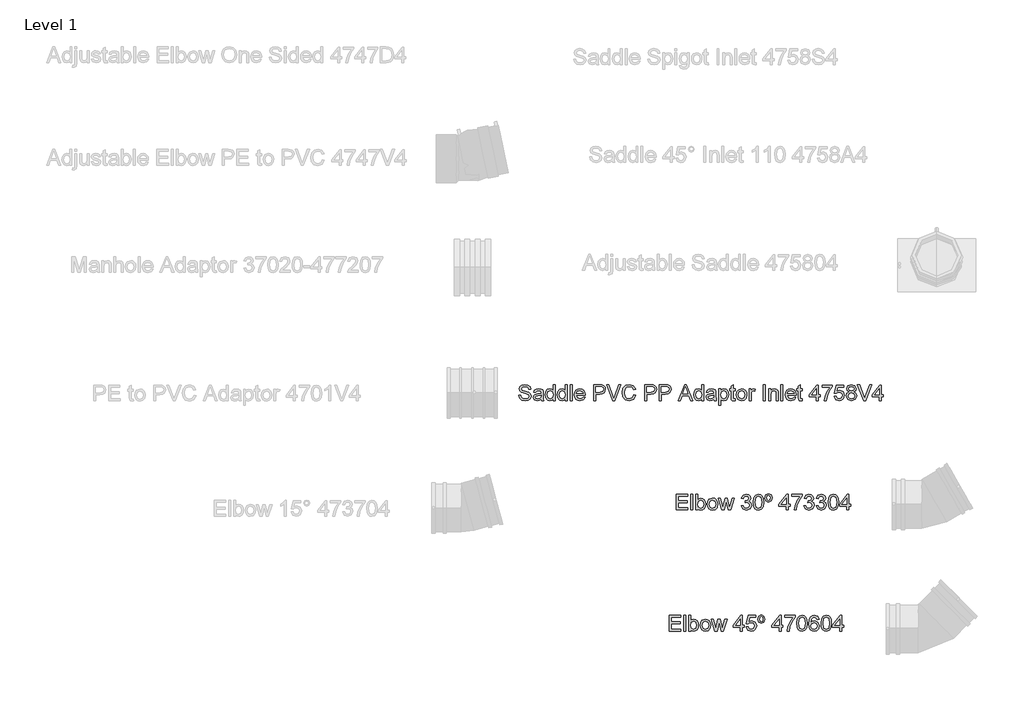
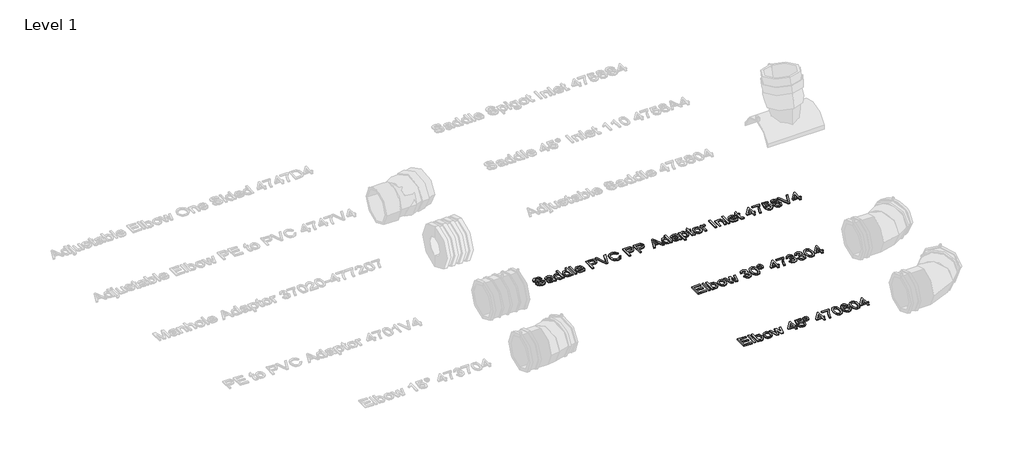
# One storey, part 35 of 38: 3 proxies.
"""IFC4 building model written with IfcOpenShell, lengths in millimetres."""

from ifc_helpers import new_model, si_unit, origin, origin_with_axes, place, context, project, spatial, polyline, outline, extrude, element, save

model = new_model("IFC4")

# Units and contexts
model_context = context("Model", 3, world=origin())
ifc_project = project(units=[si_unit("LENGTHUNIT", "METRE", prefix="MILLI")], contexts=[model_context])

# Site, building, storey
site = spatial("IfcSite", under=ifc_project)
building = spatial("IfcBuilding", under=site)
storey = spatial("IfcBuildingStorey", under=building, Name="Level 1", Elevation=0.0)

# Proxies
placement = place(None, origin())
element("IfcBuildingElementProxy", 1, Name="100 mm Arial", ObjectType="100 mm Arial", at=placement, inside=storey, context=model_context, shape_type="SweptSolid", body=[
    extrude(outline(polyline([(25571.9032607, 3533.8470421), (25579.2878761, 3533.8470421), (25581.6676838, 3526.4552151), (25587.4801838, 3521.7821382), (25596.335953, 3520.0008882), (25604.0522992, 3521.3494459), (25609.0354722, 3525.0561767), (25610.6724915, 3530.0105036), (25609.4465299, 3534.6186767), (25604.4272992, 3537.9720421), (25593.6748953, 3540.7917536), (25582.1003761, 3544.4335805), (25575.8191261, 3549.9287728), (25573.7494146, 3557.270119), (25576.3095107, 3565.6282921), (25583.7878761, 3571.5273305), (25594.7349915, 3573.5393497), (25606.4176838, 3571.4335805), (25614.2061453, 3565.2460805), (25617.1340299, 3556.0008882), (25609.7494146, 3556.0008882), (25605.5667222, 3563.5874267), (25595.023453, 3566.1547344), (25584.4513376, 3563.6162728), (25581.1340299, 3557.4864651), (25583.4849915, 3552.3662728), (25595.5426838, 3548.2412728), (25608.6099915, 3544.5345421), (25615.7566261, 3538.5489651), (25618.0571069, 3530.1980036), (25615.4104722, 3521.363869), (25607.7950876, 3514.9167536), (25596.6244146, 3512.6162728), (25583.4345107, 3515.0970421), (25575.0907607, 3522.5681959), (25571.9032607, 3533.8470421)])), origin_with_axes(), (0.0, 0.0, 1.0), 5.0),
    extrude(outline(polyline([(25655.9032607, 3519.0778113), (25648.742203, 3514.0730036), (25640.8311453, 3512.6162728), (25630.1075876, 3516.1210805), (25626.3647992, 3525.0778113), (25627.7782607, 3530.9191574), (25631.492203, 3535.1595421), (25636.6628761, 3537.582619), (25643.0522992, 3538.6931959), (25655.8599915, 3541.2316574), (25655.9032607, 3542.8758882), (25653.8696069, 3548.3278113), (25645.7061453, 3550.4624267), (25638.2349915, 3549.0417536), (25634.6724915, 3544.0008882), (25627.2878761, 3544.9239651), (25630.4825876, 3552.1355036), (25636.9152799, 3556.3614651), (25646.6580684, 3557.8470421), (25655.6075876, 3556.5345421), (25660.6628761, 3553.238869), (25662.9272992, 3548.2268497), (25663.2878761, 3541.7653113), (25663.2878761, 3532.5778113), (25663.6628761, 3519.7484844), (25665.1340299, 3513.5393497), (25657.7494146, 3513.5393497), (25655.9032607, 3519.0778113)]), holes=[polyline([(25655.9032607, 3533.8470421), (25643.9897992, 3531.582619), (25637.6364338, 3530.3855036), (25634.7590299, 3528.4383882), (25633.7494146, 3525.5970421), (25635.9489338, 3521.6018497), (25642.4032607, 3520.0008882), (25649.8744146, 3521.7677151), (25654.6917222, 3526.0441574), (25655.8599915, 3531.7556959), (25655.9032607, 3533.8470421)])]), origin_with_axes(), (0.0, 0.0, 1.0), 5.0),
    extrude(outline(polyline([(25700.210953, 3513.5393497), (25700.210953, 3520.5056959), (25695.3251357, 3514.5886286), (25688.5715299, 3512.6162728), (25679.4272992, 3515.4720421), (25672.9657607, 3523.4407921), (25670.6724915, 3535.1883882), (25672.7854722, 3546.9431959), (25679.117203, 3555.0345421), (25688.5426838, 3557.8470421), (25695.3503761, 3555.8350228), (25700.210953, 3550.6066574), (25700.210953, 3572.6162728), (25707.5955684, 3572.6162728), (25707.5955684, 3513.5393497), (25700.210953, 3513.5393497)]), holes=[polyline([(25678.0571069, 3535.2172344), (25681.3888376, 3523.7869459), (25689.2494146, 3520.0008882), (25697.0162415, 3523.613869), (25700.210953, 3534.6547344), (25696.9585492, 3546.6403113), (25688.9465299, 3550.4624267), (25681.1724915, 3546.7917536), (25678.0571069, 3535.2172344)])]), origin_with_axes(), (0.0, 0.0, 1.0), 5.0),
    extrude(outline(polyline([(25745.4417222, 3513.5393497), (25745.4417222, 3520.5056959), (25740.5559049, 3514.5886286), (25733.8022992, 3512.6162728), (25724.6580684, 3515.4720421), (25718.1965299, 3523.4407921), (25715.9032607, 3535.1883882), (25718.0162415, 3546.9431959), (25724.3479722, 3555.0345421), (25733.773453, 3557.8470421), (25740.5811453, 3555.8350228), (25745.4417222, 3550.6066574), (25745.4417222, 3572.6162728), (25752.8263376, 3572.6162728), (25752.8263376, 3513.5393497), (25745.4417222, 3513.5393497)]), holes=[polyline([(25723.2878761, 3535.2172344), (25726.6196069, 3523.7869459), (25734.4801838, 3520.0008882), (25742.2470107, 3523.613869), (25745.4417222, 3534.6547344), (25742.1893184, 3546.6403113), (25734.1772992, 3550.4624267), (25726.4032607, 3546.7917536), (25723.2878761, 3535.2172344)])]), origin_with_axes(), (0.0, 0.0, 1.0), 5.0),
    extrude(outline(polyline([(25763.9032607, 3513.5393497), (25763.9032607, 3572.6162728), (25771.2878761, 3572.6162728), (25771.2878761, 3513.5393497), (25763.9032607, 3513.5393497)])), origin_with_axes(), (0.0, 0.0, 1.0), 5.0),
    extrude(outline(polyline([(25812.7397992, 3526.4624267), (25819.9801838, 3525.5393497), (25813.2085492, 3516.0056959), (25800.5955684, 3512.6162728), (25791.9309049, 3514.0784122), (25785.2638376, 3518.4648305), (25781.0126357, 3525.4906719), (25779.5955684, 3534.8710805), (25781.0270588, 3544.566994), (25785.3215299, 3551.8181959), (25791.898453, 3556.3398305), (25800.1772992, 3557.8470421), (25808.1983328, 3556.3434363), (25814.6075876, 3551.832619), (25818.8101117, 3544.5958401), (25820.210953, 3534.9143497), (25820.1676838, 3532.9239651), (25786.9801838, 3532.9239651), (25791.2277799, 3523.332619), (25800.7397992, 3520.0008882), (25807.9801838, 3521.5441574), (25812.7397992, 3526.4624267)]), holes=[polyline([(25786.9801838, 3540.3085805), (25812.8263376, 3540.3085805), (25809.8696069, 3547.0008882), (25800.148453, 3550.4624267), (25791.054703, 3547.7004074), (25786.9801838, 3540.3085805)])]), origin_with_axes(), (0.0, 0.0, 1.0), 5.0),
    extrude(outline(polyline([(25851.5955684, 3513.5393497), (25851.5955684, 3572.6162728), (25873.4897992, 3572.6162728), (25882.3167222, 3572.0537728), (25889.492203, 3569.2917536), (25894.1436453, 3563.5802151), (25895.9032607, 3555.5249267), (25891.1508569, 3542.7605036), (25884.4855924, 3538.8446382), (25873.9946069, 3537.5393497), (25858.9801838, 3537.5393497), (25858.9801838, 3513.5393497), (25851.5955684, 3513.5393497)]), holes=[polyline([(25858.9801838, 3544.9239651), (25874.4272992, 3544.9239651), (25885.3022992, 3547.6355036), (25888.5186453, 3555.2653113), (25886.6220107, 3561.3806959), (25881.6388376, 3564.7268497), (25874.2542222, 3565.2316574), (25858.9801838, 3565.2316574), (25858.9801838, 3544.9239651)])]), origin_with_axes(), (0.0, 0.0, 1.0), 5.0),
    extrude(outline(polyline([(25923.5090299, 3513.5393497), (25899.9994146, 3572.6162728), (25907.9032607, 3572.6162728), (25923.6388376, 3530.0537728), (25926.8263376, 3520.4624267), (25929.9705684, 3530.0537728), (25945.7494146, 3572.6162728), (25953.6532607, 3572.6162728), (25931.1388376, 3513.5393497), (25923.5090299, 3513.5393497)])), origin_with_axes(), (0.0, 0.0, 1.0), 5.0),
    extrude(outline(polyline([(26002.0571069, 3534.5393497), (26009.4417222, 3532.6355036), (26000.6869146, 3517.7436767), (25985.2253761, 3512.6162728), (25969.8575876, 3516.4960805), (25960.8431646, 3527.7316574), (25957.7494146, 3543.5249267), (25961.2470107, 3559.5778113), (25971.1917222, 3569.9840613), (25985.3840299, 3573.5393497), (26000.1748953, 3568.9383882), (26008.5186453, 3555.9864651), (26001.1340299, 3554.2268497), (25995.0763376, 3563.3061767), (25985.0955684, 3566.1547344), (25973.5426838, 3562.9960805), (25967.0162415, 3554.5153113), (25965.1340299, 3543.5393497), (25967.3623953, 3530.8181959), (25974.2998953, 3522.6907921), (25984.4897992, 3520.0008882), (25995.7902799, 3523.6643497), (26002.0571069, 3534.5393497)])), origin_with_axes(), (0.0, 0.0, 1.0), 5.0),
    extrude(outline(polyline([(26042.6724915, 3513.5393497), (26042.6724915, 3572.6162728), (26064.5667222, 3572.6162728), (26073.3936453, 3572.0537728), (26080.5691261, 3569.2917536), (26085.2205684, 3563.5802151), (26086.9801838, 3555.5249267), (26082.2277799, 3542.7605036), (26075.5625155, 3538.8446382), (26065.0715299, 3537.5393497), (26050.0571069, 3537.5393497), (26050.0571069, 3513.5393497), (26042.6724915, 3513.5393497)]), holes=[polyline([(26050.0571069, 3544.9239651), (26065.5042222, 3544.9239651), (26076.3792222, 3547.6355036), (26079.5955684, 3555.2653113), (26077.6989338, 3561.3806959), (26072.7157607, 3564.7268497), (26065.3311453, 3565.2316574), (26050.0571069, 3565.2316574), (26050.0571069, 3544.9239651)])]), origin_with_axes(), (0.0, 0.0, 1.0), 5.0),
    extrude(outline(polyline([(26097.1340299, 3513.5393497), (26097.1340299, 3572.6162728), (26119.0282607, 3572.6162728), (26127.8551838, 3572.0537728), (26135.0306646, 3569.2917536), (26139.6821069, 3563.5802151), (26141.4417222, 3555.5249267), (26136.6893184, 3542.7605036), (26130.024054, 3538.8446382), (26119.5330684, 3537.5393497), (26104.5186453, 3537.5393497), (26104.5186453, 3513.5393497), (26097.1340299, 3513.5393497)]), holes=[polyline([(26104.5186453, 3544.9239651), (26119.9657607, 3544.9239651), (26130.8407607, 3547.6355036), (26134.0571069, 3555.2653113), (26132.1604722, 3561.3806959), (26127.1772992, 3564.7268497), (26119.7926838, 3565.2316574), (26104.5186453, 3565.2316574), (26104.5186453, 3544.9239651)])]), origin_with_axes(), (0.0, 0.0, 1.0), 5.0),
    extrude(outline(polyline([(26167.7926838, 3513.5393497), (26191.3744146, 3572.6162728), (26197.6628761, 3572.6162728), (26221.2446069, 3513.5393497), (26213.4417222, 3513.5393497), (26206.6772992, 3532.0008882), (26182.3455684, 3532.0008882), (26175.5955684, 3513.5393497), (26167.7926838, 3513.5393497)]), holes=[polyline([(26185.0571069, 3539.3855036), (26203.9801838, 3539.3855036), (26198.6580684, 3553.9095421), (26194.5186453, 3565.2316574), (26190.8407607, 3555.1787728), (26185.0571069, 3539.3855036)])]), origin_with_axes(), (0.0, 0.0, 1.0), 5.0),
    extrude(outline(polyline([(26254.9801838, 3513.5393497), (26254.9801838, 3520.5056959), (26250.0943665, 3514.5886286), (26243.3407607, 3512.6162728), (26234.1965299, 3515.4720421), (26227.7349915, 3523.4407921), (26225.4417222, 3535.1883882), (26227.554703, 3546.9431959), (26233.8864338, 3555.0345421), (26243.3119146, 3557.8470421), (26250.1196069, 3555.8350228), (26254.9801838, 3550.6066574), (26254.9801838, 3572.6162728), (26262.3647992, 3572.6162728), (26262.3647992, 3513.5393497), (26254.9801838, 3513.5393497)]), holes=[polyline([(26232.8263376, 3535.2172344), (26236.1580684, 3523.7869459), (26244.0186453, 3520.0008882), (26251.7854722, 3523.613869), (26254.9801838, 3534.6547344), (26251.7277799, 3546.6403113), (26243.7157607, 3550.4624267), (26235.9417222, 3546.7917536), (26232.8263376, 3535.2172344)])]), origin_with_axes(), (0.0, 0.0, 1.0), 5.0),
    extrude(outline(polyline([(26301.1340299, 3519.0778113), (26293.9729722, 3514.0730036), (26286.0619146, 3512.6162728), (26275.3383569, 3516.1210805), (26271.5955684, 3525.0778113), (26273.0090299, 3530.9191574), (26276.7229722, 3535.1595421), (26281.8936453, 3537.582619), (26288.2830684, 3538.6931959), (26301.0907607, 3541.2316574), (26301.1340299, 3542.8758882), (26299.1003761, 3548.3278113), (26290.9369146, 3550.4624267), (26283.4657607, 3549.0417536), (26279.9032607, 3544.0008882), (26272.5186453, 3544.9239651), (26275.7133569, 3552.1355036), (26282.1460492, 3556.3614651), (26291.8888376, 3557.8470421), (26300.8383569, 3556.5345421), (26305.8936453, 3553.238869), (26308.1580684, 3548.2268497), (26308.5186453, 3541.7653113), (26308.5186453, 3532.5778113), (26308.8936453, 3519.7484844), (26310.3647992, 3513.5393497), (26302.9801838, 3513.5393497), (26301.1340299, 3519.0778113)]), holes=[polyline([(26301.1340299, 3533.8470421), (26289.2205684, 3531.582619), (26282.867203, 3530.3855036), (26279.9897992, 3528.4383882), (26278.9801838, 3525.5970421), (26281.179703, 3521.6018497), (26287.6340299, 3520.0008882), (26295.1051838, 3521.7677151), (26299.9224915, 3526.0441574), (26301.0907607, 3531.7556959), (26301.1340299, 3533.8470421)])]), origin_with_axes(), (0.0, 0.0, 1.0), 5.0),
    extrude(outline(polyline([(26318.6724915, 3496.9239651), (26318.6724915, 3556.9239651), (26326.0571069, 3556.9239651), (26326.0571069, 3549.6835805), (26331.1628761, 3555.8061767), (26338.0571069, 3557.8470421), (26347.4176838, 3554.9912728), (26353.5330684, 3546.9431959), (26355.5955684, 3535.5633882), (26353.2662415, 3523.5994459), (26346.5018184, 3515.4504074), (26337.1628761, 3512.6162728), (26330.7373953, 3514.5129074), (26326.0571069, 3519.3085805), (26326.0571069, 3496.9239651), (26318.6724915, 3496.9239651)]), holes=[polyline([(26326.0571069, 3534.8855036), (26329.2518184, 3523.6355036), (26337.0042222, 3520.0008882), (26344.9152799, 3523.7653113), (26348.210953, 3535.4335805), (26344.9946069, 3546.7124267), (26337.3071069, 3550.4624267), (26329.4681646, 3546.4744459), (26326.0571069, 3534.8855036)])]), origin_with_axes(), (0.0, 0.0, 1.0), 5.0),
    extrude(outline(polyline([(26379.5955684, 3519.6980036), (26380.5186453, 3513.3230036), (26374.9946069, 3512.6162728), (26368.8071069, 3513.8422344), (26365.7205684, 3517.0585805), (26364.8263376, 3525.4383882), (26364.8263376, 3549.5393497), (26359.2878761, 3549.5393497), (26359.2878761, 3556.9239651), (26364.8263376, 3556.9239651), (26364.8263376, 3567.4672344), (26372.210953, 3571.8085805), (26372.210953, 3556.9239651), (26379.5955684, 3556.9239651), (26379.5955684, 3549.5393497), (26372.210953, 3549.5393497), (26372.210953, 3525.6547344), (26372.6003761, 3521.8470421), (26373.8623953, 3520.4984844), (26376.3792222, 3520.0008882), (26379.5955684, 3519.6980036)])), origin_with_axes(), (0.0, 0.0, 1.0), 5.0),
    extrude(outline(polyline([(26385.1340299, 3535.2316574), (26386.7313857, 3545.691994), (26391.523453, 3553.0441574), (26404.5330684, 3557.8470421), (26412.2908809, 3556.3849026), (26418.4873953, 3551.9984844), (26422.5492944, 3545.0339411), (26423.9032607, 3535.8374267), (26421.5090299, 3522.6980036), (26414.5354722, 3515.2629074), (26404.5330684, 3512.6162728), (26396.6815059, 3514.0730036), (26390.492203, 3518.4431959), (26386.4735732, 3525.5537728), (26385.1340299, 3535.2316574)]), holes=[polyline([(26392.5186453, 3535.2460805), (26395.9369146, 3523.801369), (26404.5330684, 3520.0008882), (26413.1003761, 3523.8230036), (26416.5186453, 3535.4768497), (26413.0787415, 3546.6619459), (26404.5330684, 3550.4624267), (26395.9369146, 3546.676369), (26392.5186453, 3535.2460805)])]), origin_with_axes(), (0.0, 0.0, 1.0), 5.0),
    extrude(outline(polyline([(26432.210953, 3513.5393497), (26432.210953, 3556.9239651), (26438.6724915, 3556.9239651), (26438.6724915, 3550.5056959), (26443.2590299, 3556.4191574), (26447.8744146, 3557.8470421), (26455.2878761, 3555.5681959), (26452.8215299, 3548.9480036), (26447.6292222, 3550.4624267), (26443.4537415, 3549.0056959), (26440.7926838, 3544.9672344), (26439.5955684, 3536.3422344), (26439.5955684, 3513.5393497), (26432.210953, 3513.5393497)])), origin_with_axes(), (0.0, 0.0, 1.0), 5.0),
    extrude(outline(polyline([(26484.8263376, 3513.5393497), (26484.8263376, 3572.6162728), (26492.210953, 3572.6162728), (26492.210953, 3513.5393497), (26484.8263376, 3513.5393497)])), origin_with_axes(), (0.0, 0.0, 1.0), 5.0),
    extrude(outline(polyline([(26506.0571069, 3513.5393497), (26506.0571069, 3556.9239651), (26513.4417222, 3556.9239651), (26513.4417222, 3550.8662728), (26519.0883569, 3556.1018497), (26526.7974915, 3557.8470421), (26533.7710492, 3556.4407921), (26538.5306646, 3552.7484844), (26540.7446069, 3547.3181959), (26541.1340299, 3540.1787728), (26541.1340299, 3513.5393497), (26533.7494146, 3513.5393497), (26533.7494146, 3539.1835805), (26532.898453, 3545.7172344), (26529.8912415, 3549.1715613), (26524.8215299, 3550.4624267), (26516.8095107, 3547.5633882), (26513.4417222, 3536.5585805), (26513.4417222, 3513.5393497), (26506.0571069, 3513.5393497)])), origin_with_axes(), (0.0, 0.0, 1.0), 5.0),
    extrude(outline(polyline([(26551.2878761, 3513.5393497), (26551.2878761, 3572.6162728), (26558.6724915, 3572.6162728), (26558.6724915, 3513.5393497), (26551.2878761, 3513.5393497)])), origin_with_axes(), (0.0, 0.0, 1.0), 5.0),
    extrude(outline(polyline([(26600.1244146, 3526.4624267), (26607.3647992, 3525.5393497), (26600.5931646, 3516.0056959), (26587.9801838, 3512.6162728), (26579.3155203, 3514.0784122), (26572.648453, 3518.4648305), (26568.3972511, 3525.4906719), (26566.9801838, 3534.8710805), (26568.4116742, 3544.566994), (26572.7061453, 3551.8181959), (26579.2830684, 3556.3398305), (26587.5619146, 3557.8470421), (26595.5829482, 3556.3434363), (26601.992203, 3551.832619), (26606.1947271, 3544.5958401), (26607.5955684, 3534.9143497), (26607.5522992, 3532.9239651), (26574.3647992, 3532.9239651), (26578.6123953, 3523.332619), (26588.1244146, 3520.0008882), (26595.3647992, 3521.5441574), (26600.1244146, 3526.4624267)]), holes=[polyline([(26574.3647992, 3540.3085805), (26600.210953, 3540.3085805), (26597.2542222, 3547.0008882), (26587.5330684, 3550.4624267), (26578.4393184, 3547.7004074), (26574.3647992, 3540.3085805)])]), origin_with_axes(), (0.0, 0.0, 1.0), 5.0),
    extrude(outline(polyline([(26630.6724915, 3519.6980036), (26631.5955684, 3513.3230036), (26626.0715299, 3512.6162728), (26619.8840299, 3513.8422344), (26616.7974915, 3517.0585805), (26615.9032607, 3525.4383882), (26615.9032607, 3549.5393497), (26610.3647992, 3549.5393497), (26610.3647992, 3556.9239651), (26615.9032607, 3556.9239651), (26615.9032607, 3567.4672344), (26623.2878761, 3571.8085805), (26623.2878761, 3556.9239651), (26630.6724915, 3556.9239651), (26630.6724915, 3549.5393497), (26623.2878761, 3549.5393497), (26623.2878761, 3525.6547344), (26623.6772992, 3521.8470421), (26624.9393184, 3520.4984844), (26627.4561453, 3520.0008882), (26630.6724915, 3519.6980036)])), origin_with_axes(), (0.0, 0.0, 1.0), 5.0),
    extrude(outline(polyline([(26683.2878761, 3513.5393497), (26683.2878761, 3527.3855036), (26656.5186453, 3527.3855036), (26656.5186453, 3534.770119), (26685.1340299, 3571.6931959), (26690.6724915, 3571.6931959), (26690.6724915, 3534.770119), (26698.0571069, 3534.770119), (26698.0571069, 3527.3855036), (26690.6724915, 3527.3855036), (26690.6724915, 3513.5393497), (26683.2878761, 3513.5393497)]), holes=[polyline([(26683.2878761, 3534.770119), (26683.2878761, 3557.5874267), (26665.6051838, 3534.770119), (26683.2878761, 3534.770119)])]), origin_with_axes(), (0.0, 0.0, 1.0), 5.0),
    extrude(outline(polyline([(26704.5186453, 3564.3085805), (26704.5186453, 3571.6931959), (26743.2878761, 3571.6931959), (26743.2878761, 3565.7220421), (26732.2902799, 3549.8350228), (26723.8744146, 3529.5922344), (26721.1340299, 3513.5393497), (26713.7494146, 3513.5393497), (26716.6845107, 3530.1980036), (26724.7397992, 3549.0273305), (26735.9032607, 3564.3085805), (26704.5186453, 3564.3085805)])), origin_with_axes(), (0.0, 0.0, 1.0), 5.0),
    extrude(outline(polyline([(26749.7494146, 3529.2316574), (26757.1340299, 3530.1547344), (26760.8551838, 3522.5465613), (26768.5715299, 3520.0008882), (26777.8311453, 3523.5417536), (26781.1340299, 3532.9383882), (26778.0402799, 3541.707619), (26768.6869146, 3544.9239651), (26762.2037415, 3543.6403113), (26758.0571069, 3540.3085805), (26750.6724915, 3541.2316574), (26757.1340299, 3571.6931959), (26785.7494146, 3571.6931959), (26785.7494146, 3564.3085805), (26763.1051838, 3564.3085805), (26759.9465299, 3548.0393497), (26770.7494146, 3552.3085805), (26783.3768184, 3547.0153113), (26788.5186453, 3533.3999267), (26783.8888376, 3519.6980036), (26777.2397992, 3514.3867055), (26768.5426838, 3512.6162728), (26755.5114338, 3517.1667536), (26749.7494146, 3529.2316574)])), origin_with_axes(), (0.0, 0.0, 1.0), 5.0),
    extrude(outline(polyline([(26805.7397992, 3546.0778113), (26799.0114338, 3550.6643497), (26796.8263376, 3557.8037728), (26801.585953, 3568.3470421), (26814.2638376, 3572.6162728), (26827.0571069, 3568.2460805), (26831.9032607, 3557.6018497), (26829.7470107, 3550.6427151), (26823.2061453, 3546.0778113), (26831.0595107, 3540.2869459), (26833.7494146, 3530.7316574), (26828.4128761, 3517.8374267), (26814.3647992, 3512.6162728), (26800.3167222, 3517.8590613), (26794.9801838, 3530.9335805), (26797.7782607, 3540.7124267), (26805.7397992, 3546.0778113)]), holes=[polyline([(26804.210953, 3557.5874267), (26806.8287415, 3551.7893497), (26814.4513376, 3549.5393497), (26821.9224915, 3551.7749267), (26824.5186453, 3557.2556959), (26821.835953, 3562.9311767), (26814.3647992, 3565.2316574), (26806.8720107, 3562.9816574), (26804.210953, 3557.5874267)]), polyline([(26802.3647992, 3531.1931959), (26803.5979722, 3525.6330997), (26807.960953, 3521.4720421), (26814.4224915, 3520.0008882), (26823.2205684, 3523.0946382), (26826.3647992, 3530.9624267), (26823.1196069, 3538.9816574), (26814.1772992, 3542.1547344), (26805.4873953, 3539.0249267), (26802.3647992, 3531.1931959)])]), origin_with_axes(), (0.0, 0.0, 1.0), 5.0),
    extrude(outline(polyline([(26860.4321069, 3513.5393497), (26836.9224915, 3572.6162728), (26844.8263376, 3572.6162728), (26860.5619146, 3530.0537728), (26863.7494146, 3520.4624267), (26866.8936453, 3530.0537728), (26882.6724915, 3572.6162728), (26890.5763376, 3572.6162728), (26868.0619146, 3513.5393497), (26860.4321069, 3513.5393497)])), origin_with_axes(), (0.0, 0.0, 1.0), 5.0),
    extrude(outline(polyline([(26918.6724915, 3513.5393497), (26918.6724915, 3527.3855036), (26891.9032607, 3527.3855036), (26891.9032607, 3534.770119), (26920.5186453, 3571.6931959), (26926.0571069, 3571.6931959), (26926.0571069, 3534.770119), (26933.4417222, 3534.770119), (26933.4417222, 3527.3855036), (26926.0571069, 3527.3855036), (26926.0571069, 3513.5393497), (26918.6724915, 3513.5393497)]), holes=[polyline([(26918.6724915, 3534.770119), (26918.6724915, 3557.5874267), (26900.9897992, 3534.770119), (26918.6724915, 3534.770119)])]), origin_with_axes(), (0.0, 0.0, 1.0), 5.0),
])
element("IfcBuildingElementProxy", 2, Name="100 mm Arial", ObjectType="100 mm Arial", at=placement, inside=storey, context=model_context, shape_type="SweptSolid", body=[
    extrude(outline(polyline([(26160.6591528, 3105.0653516), (26160.6591528, 3164.1422747), (26203.1206913, 3164.1422747), (26203.1206913, 3156.7576593), (26168.0437682, 3156.7576593), (26168.0437682, 3139.2191977), (26201.2745375, 3139.2191977), (26201.2745375, 3131.8345824), (26168.0437682, 3131.8345824), (26168.0437682, 3112.449967), (26204.0437682, 3112.449967), (26204.0437682, 3105.0653516), (26160.6591528, 3105.0653516)])), origin_with_axes(), (0.0, 0.0, 1.0), 5.0),
    extrude(outline(polyline([(26214.1976144, 3105.0653516), (26214.1976144, 3164.1422747), (26221.5822298, 3164.1422747), (26221.5822298, 3105.0653516), (26214.1976144, 3105.0653516)])), origin_with_axes(), (0.0, 0.0, 1.0), 5.0),
    extrude(outline(polyline([(26240.0437682, 3105.0653516), (26232.6591528, 3105.0653516), (26232.6591528, 3164.1422747), (26240.0437682, 3164.1422747), (26240.0437682, 3142.2336208), (26245.2144413, 3147.5881881), (26251.6399221, 3149.3730439), (26259.0389605, 3147.7648708), (26264.7793452, 3143.2432362), (26268.3057875, 3136.2119862), (26269.5822298, 3127.4066977), (26268.2607153, 3117.5485247), (26264.2961721, 3110.21439), (26258.4782634, 3105.6603035), (26251.5966528, 3104.1422747), (26245.0305471, 3106.1002074), (26240.0437682, 3111.9740054), (26240.0437682, 3105.0653516)]), holes=[polyline([(26240.0437682, 3127.0605439), (26242.062999, 3116.7336208), (26250.9620375, 3111.52689), (26258.8658836, 3115.3634285), (26262.1976144, 3126.8009285), (26259.0029028, 3138.2816977), (26251.2793452, 3141.9884285), (26243.375499, 3138.15189), (26240.0437682, 3127.0605439)])]), origin_with_axes(), (0.0, 0.0, 1.0), 5.0),
    extrude(outline(polyline([(26276.0437682, 3126.7576593), (26277.641124, 3137.2179958), (26282.4331913, 3144.5701593), (26295.4428067, 3149.3730439), (26303.2006192, 3147.9109045), (26309.3971336, 3143.5244862), (26313.4590327, 3136.5599429), (26314.812999, 3127.3634285), (26312.4187682, 3114.2240054), (26305.4452105, 3106.7889093), (26295.4428067, 3104.1422747), (26287.5912442, 3105.5990054), (26281.4019413, 3109.9691977), (26277.3833115, 3117.0797747), (26276.0437682, 3126.7576593)]), holes=[polyline([(26283.4283836, 3126.7720824), (26286.8466528, 3115.3273708), (26295.4428067, 3111.52689), (26304.0101144, 3115.3490054), (26307.4283836, 3127.0028516), (26303.9884798, 3138.1879477), (26295.4428067, 3141.9884285), (26286.8466528, 3138.2023708), (26283.4283836, 3126.7720824)])]), origin_with_axes(), (0.0, 0.0, 1.0), 5.0),
    extrude(outline(polyline([(26330.3178067, 3105.0653516), (26317.1206913, 3148.449967), (26324.7937682, 3148.449967), (26332.2793452, 3123.137467), (26334.5149221, 3114.0941977), (26336.3466528, 3122.8057362), (26342.3033836, 3148.449967), (26351.1014605, 3148.449967), (26357.0293452, 3122.8778516), (26358.6591528, 3114.9884285), (26360.9956913, 3123.3105439), (26368.4956913, 3148.449967), (26376.1976144, 3148.449967), (26362.8995375, 3105.0653516), (26353.9716528, 3105.0653516), (26348.3033836, 3130.5076593), (26346.6591528, 3138.4403516), (26339.3466528, 3105.0653516), (26330.3178067, 3105.0653516)])), origin_with_axes(), (0.0, 0.0, 1.0), 5.0),
    extrude(outline(polyline([(26402.5053067, 3120.7576593), (26409.8899221, 3121.6807362), (26413.9644413, 3113.9066977), (26421.5870375, 3111.52689), (26430.5581913, 3114.8009285), (26433.8899221, 3122.9066977), (26430.5870375, 3130.543717), (26422.1928067, 3133.5653516), (26417.0149221, 3132.7576593), (26417.8370375, 3140.1422747), (26427.3995375, 3142.1759285), (26431.1206913, 3148.6951593), (26428.4235759, 3154.4716016), (26421.4716528, 3156.7576593), (26414.4331913, 3154.449967), (26410.812999, 3147.52689), (26403.4283836, 3148.449967), (26409.4716528, 3160.0316977), (26421.2120375, 3164.1422747), (26430.1182875, 3162.1158324), (26436.3490567, 3156.5773708), (26438.5053067, 3149.1278516), (26436.4572298, 3142.3201593), (26430.3995375, 3137.4307362), (26438.4476144, 3132.3826593), (26441.2745375, 3122.77689), (26435.6206913, 3109.5653516), (26421.3274221, 3104.1422747), (26408.375499, 3108.7720824), (26402.5053067, 3120.7576593)])), origin_with_axes(), (0.0, 0.0, 1.0), 5.0),
    extrude(outline(polyline([(26447.7360759, 3134.1278516), (26449.906749, 3151.1254477), (26456.3538644, 3160.9259285), (26467.1206913, 3164.1422747), (26475.7456913, 3162.2384285), (26481.7024221, 3156.7504477), (26485.1639605, 3148.0100631), (26486.5053067, 3134.1278516), (26484.3562682, 3117.2023708), (26477.9307875, 3107.3802554), (26467.1206913, 3104.1422747), (26459.4476144, 3105.5485247), (26453.6206913, 3109.7672747), (26449.2072298, 3119.7588612), (26447.7360759, 3134.1278516)]), holes=[polyline([(26455.1206913, 3134.1422747), (26458.5822298, 3115.8033324), (26467.1206913, 3111.52689), (26475.6591528, 3115.8177554), (26479.1206913, 3134.1422747), (26475.7745375, 3152.2720824), (26467.0341528, 3156.7576593), (26458.6976144, 3152.8057362), (26455.1206913, 3134.1422747)])]), origin_with_axes(), (0.0, 0.0, 1.0), 5.0),
    extrude(outline(polyline([(26504.5053067, 3165.0653516), (26514.1543452, 3161.012467), (26517.8899221, 3149.8201593), (26514.1327105, 3138.6566977), (26504.5485759, 3134.6038131), (26494.8779028, 3138.5773708), (26491.1206913, 3149.6470824), (26494.8562682, 3161.012467), (26504.5053067, 3165.0653516)]), holes=[polyline([(26504.5053067, 3159.52689), (26500.156749, 3157.2552554), (26498.5053067, 3149.8345824), (26500.1855952, 3142.4788131), (26504.5053067, 3140.1422747), (26508.8394413, 3142.4788131), (26510.5053067, 3150.0365054), (26508.8250182, 3157.2119862), (26504.5053067, 3159.52689)])]), origin_with_axes(), (0.0, 0.0, 1.0), 5.0),
    extrude(outline(polyline([(26570.5053067, 3105.0653516), (26570.5053067, 3118.9115054), (26543.7360759, 3118.9115054), (26543.7360759, 3126.2961208), (26572.3514605, 3163.2191977), (26577.8899221, 3163.2191977), (26577.8899221, 3126.2961208), (26585.2745375, 3126.2961208), (26585.2745375, 3118.9115054), (26577.8899221, 3118.9115054), (26577.8899221, 3105.0653516), (26570.5053067, 3105.0653516)]), holes=[polyline([(26570.5053067, 3126.2961208), (26570.5053067, 3149.1134285), (26552.8226144, 3126.2961208), (26570.5053067, 3126.2961208)])]), origin_with_axes(), (0.0, 0.0, 1.0), 5.0),
    extrude(outline(polyline([(26591.7360759, 3155.8345824), (26591.7360759, 3163.2191977), (26630.5053067, 3163.2191977), (26630.5053067, 3157.2480439), (26619.5077105, 3141.3610247), (26611.0918452, 3121.1182362), (26608.3514605, 3105.0653516), (26600.9668452, 3105.0653516), (26603.9019413, 3121.7240054), (26611.9572298, 3140.5533324), (26623.1206913, 3155.8345824), (26591.7360759, 3155.8345824)])), origin_with_axes(), (0.0, 0.0, 1.0), 5.0),
    extrude(outline(polyline([(26636.9668452, 3120.7576593), (26644.3514605, 3121.6807362), (26648.4259798, 3113.9066977), (26656.0485759, 3111.52689), (26665.0197298, 3114.8009285), (26668.3514605, 3122.9066977), (26665.0485759, 3130.543717), (26656.6543452, 3133.5653516), (26651.4764605, 3132.7576593), (26652.2985759, 3140.1422747), (26661.8610759, 3142.1759285), (26665.5822298, 3148.6951593), (26662.8851144, 3154.4716016), (26655.9331913, 3156.7576593), (26648.8947298, 3154.449967), (26645.2745375, 3147.52689), (26637.8899221, 3148.449967), (26643.9331913, 3160.0316977), (26655.6735759, 3164.1422747), (26664.5798259, 3162.1158324), (26670.8105952, 3156.5773708), (26672.9668452, 3149.1278516), (26670.9187682, 3142.3201593), (26664.8610759, 3137.4307362), (26672.9091528, 3132.3826593), (26675.7360759, 3122.77689), (26670.0822298, 3109.5653516), (26655.7889605, 3104.1422747), (26642.8370375, 3108.7720824), (26636.9668452, 3120.7576593)])), origin_with_axes(), (0.0, 0.0, 1.0), 5.0),
    extrude(outline(polyline([(26682.1976144, 3120.7576593), (26689.5822298, 3121.6807362), (26693.656749, 3113.9066977), (26701.2793452, 3111.52689), (26710.250499, 3114.8009285), (26713.5822298, 3122.9066977), (26710.2793452, 3130.543717), (26701.8851144, 3133.5653516), (26696.7072298, 3132.7576593), (26697.5293452, 3140.1422747), (26707.0918452, 3142.1759285), (26710.812999, 3148.6951593), (26708.1158836, 3154.4716016), (26701.1639605, 3156.7576593), (26694.125499, 3154.449967), (26690.5053067, 3147.52689), (26683.1206913, 3148.449967), (26689.1639605, 3160.0316977), (26700.9043452, 3164.1422747), (26709.8105952, 3162.1158324), (26716.0413644, 3156.5773708), (26718.1976144, 3149.1278516), (26716.1495375, 3142.3201593), (26710.0918452, 3137.4307362), (26718.1399221, 3132.3826593), (26720.9668452, 3122.77689), (26715.312999, 3109.5653516), (26701.0197298, 3104.1422747), (26688.0678067, 3108.7720824), (26682.1976144, 3120.7576593)])), origin_with_axes(), (0.0, 0.0, 1.0), 5.0),
    extrude(outline(polyline([(26727.4283836, 3134.1278516), (26729.5990567, 3151.1254477), (26736.0461721, 3160.9259285), (26746.812999, 3164.1422747), (26755.437999, 3162.2384285), (26761.3947298, 3156.7504477), (26764.8562682, 3148.0100631), (26766.1976144, 3134.1278516), (26764.0485759, 3117.2023708), (26757.6230952, 3107.3802554), (26746.812999, 3104.1422747), (26739.1399221, 3105.5485247), (26733.312999, 3109.7672747), (26728.8995375, 3119.7588612), (26727.4283836, 3134.1278516)]), holes=[polyline([(26734.812999, 3134.1422747), (26738.2745375, 3115.8033324), (26746.812999, 3111.52689), (26755.3514605, 3115.8177554), (26758.812999, 3134.1422747), (26755.4668452, 3152.2720824), (26746.7264605, 3156.7576593), (26738.3899221, 3152.8057362), (26734.812999, 3134.1422747)])]), origin_with_axes(), (0.0, 0.0, 1.0), 5.0),
    extrude(outline(polyline([(26796.6591528, 3105.0653516), (26796.6591528, 3118.9115054), (26769.8899221, 3118.9115054), (26769.8899221, 3126.2961208), (26798.5053067, 3163.2191977), (26804.0437682, 3163.2191977), (26804.0437682, 3126.2961208), (26811.4283836, 3126.2961208), (26811.4283836, 3118.9115054), (26804.0437682, 3118.9115054), (26804.0437682, 3105.0653516), (26796.6591528, 3105.0653516)]), holes=[polyline([(26796.6591528, 3126.2961208), (26796.6591528, 3149.1134285), (26778.9764605, 3126.2961208), (26796.6591528, 3126.2961208)])]), origin_with_axes(), (0.0, 0.0, 1.0), 5.0),
])
element("IfcBuildingElementProxy", 3, Name="100 mm Arial", ObjectType="100 mm Arial", at=placement, inside=storey, context=model_context, shape_type="SweptSolid", body=[
    extrude(outline(polyline([(26134.2106451, 2652.896426), (26134.2106451, 2711.9733491), (26176.6721836, 2711.9733491), (26176.6721836, 2704.5887337), (26141.5952605, 2704.5887337), (26141.5952605, 2687.0502722), (26174.8260297, 2687.0502722), (26174.8260297, 2679.6656568), (26141.5952605, 2679.6656568), (26141.5952605, 2660.2810414), (26177.5952605, 2660.2810414), (26177.5952605, 2652.896426), (26134.2106451, 2652.896426)])), origin_with_axes(), (0.0, 0.0, 1.0), 5.0),
    extrude(outline(polyline([(26187.7491067, 2652.896426), (26187.7491067, 2711.9733491), (26195.133722, 2711.9733491), (26195.133722, 2652.896426), (26187.7491067, 2652.896426)])), origin_with_axes(), (0.0, 0.0, 1.0), 5.0),
    extrude(outline(polyline([(26213.5952605, 2652.896426), (26206.2106451, 2652.896426), (26206.2106451, 2711.9733491), (26213.5952605, 2711.9733491), (26213.5952605, 2690.0646952), (26218.7659336, 2695.4192626), (26225.1914144, 2697.2041183), (26232.5904528, 2695.5959452), (26238.3308374, 2691.0743106), (26241.8572797, 2684.0430606), (26243.133722, 2675.2377722), (26241.8122076, 2665.3795991), (26237.8476644, 2658.0454645), (26232.0297557, 2653.4913779), (26225.1481451, 2651.9733491), (26218.5820394, 2653.9312818), (26213.5952605, 2659.8050799), (26213.5952605, 2652.896426)]), holes=[polyline([(26213.5952605, 2674.8916183), (26215.6144913, 2664.5646952), (26224.5135297, 2659.3579645), (26232.4173759, 2663.1945029), (26235.7491067, 2674.6320029), (26232.5543951, 2686.1127722), (26224.8308374, 2689.8195029), (26216.9269913, 2685.9829645), (26213.5952605, 2674.8916183)])]), origin_with_axes(), (0.0, 0.0, 1.0), 5.0),
    extrude(outline(polyline([(26249.5952605, 2674.5887337), (26251.1926163, 2685.0490702), (26255.9846836, 2692.4012337), (26268.994299, 2697.2041183), (26276.7521115, 2695.7419789), (26282.9486259, 2691.3555606), (26287.0105249, 2684.3910174), (26288.3644913, 2675.1945029), (26285.9702605, 2662.0550799), (26278.9967028, 2654.6199837), (26268.994299, 2651.9733491), (26261.1427365, 2653.4300799), (26254.9534336, 2657.8002722), (26250.9348038, 2664.9108491), (26249.5952605, 2674.5887337)]), holes=[polyline([(26256.9798759, 2674.6031568), (26260.3981451, 2663.1584452), (26268.994299, 2659.3579645), (26277.5616067, 2663.1800799), (26280.9798759, 2674.833926), (26277.539972, 2686.0190222), (26268.994299, 2689.8195029), (26260.3981451, 2686.0334452), (26256.9798759, 2674.6031568)])]), origin_with_axes(), (0.0, 0.0, 1.0), 5.0),
    extrude(outline(polyline([(26303.869299, 2652.896426), (26290.6721836, 2696.2810414), (26298.3452605, 2696.2810414), (26305.8308374, 2670.9685414), (26308.0664144, 2661.9252722), (26309.8981451, 2670.6368106), (26315.8548759, 2696.2810414), (26324.6529528, 2696.2810414), (26330.5808374, 2670.708926), (26332.2106451, 2662.8195029), (26334.5471836, 2671.1416183), (26342.0471836, 2696.2810414), (26349.7491067, 2696.2810414), (26336.4510297, 2652.896426), (26327.5231451, 2652.896426), (26321.8548759, 2678.3387337), (26320.2106451, 2686.271426), (26312.8981451, 2652.896426), (26303.869299, 2652.896426)])), origin_with_axes(), (0.0, 0.0, 1.0), 5.0),
    extrude(outline(polyline([(26400.056799, 2652.896426), (26400.056799, 2666.7425799), (26373.2875682, 2666.7425799), (26373.2875682, 2674.1271952), (26401.9029528, 2711.0502722), (26407.4414144, 2711.0502722), (26407.4414144, 2674.1271952), (26414.8260297, 2674.1271952), (26414.8260297, 2666.7425799), (26407.4414144, 2666.7425799), (26407.4414144, 2652.896426), (26400.056799, 2652.896426)]), holes=[polyline([(26400.056799, 2674.1271952), (26400.056799, 2696.9445029), (26382.3741067, 2674.1271952), (26400.056799, 2674.1271952)])]), origin_with_axes(), (0.0, 0.0, 1.0), 5.0),
    extrude(outline(polyline([(26421.2875682, 2668.5887337), (26428.6721836, 2669.5118106), (26432.3933374, 2661.9036376), (26440.1096836, 2659.3579645), (26449.369299, 2662.8988299), (26452.6721836, 2672.2954645), (26449.5784336, 2681.0646952), (26440.2250682, 2684.2810414), (26433.7418951, 2682.9973876), (26429.5952605, 2679.6656568), (26422.2106451, 2680.5887337), (26428.6721836, 2711.0502722), (26457.2875682, 2711.0502722), (26457.2875682, 2703.6656568), (26434.6433374, 2703.6656568), (26431.4846836, 2687.396426), (26442.2875682, 2691.6656568), (26454.914972, 2686.3723876), (26460.056799, 2672.7570029), (26455.4269913, 2659.0550799), (26448.7779528, 2653.7437818), (26440.0808374, 2651.9733491), (26427.0495874, 2656.5238299), (26421.2875682, 2668.5887337)])), origin_with_axes(), (0.0, 0.0, 1.0), 5.0),
    extrude(outline(polyline([(26478.056799, 2712.896426), (26487.7058374, 2708.8435414), (26491.4414144, 2697.6512337), (26487.6842028, 2686.4877722), (26478.1000682, 2682.4348876), (26468.4293951, 2686.4084452), (26464.6721836, 2697.4781568), (26468.4077605, 2708.8435414), (26478.056799, 2712.896426)]), holes=[polyline([(26478.056799, 2707.3579645), (26473.7082413, 2705.0863299), (26472.056799, 2697.6656568), (26473.7370874, 2690.3098876), (26478.056799, 2687.9733491), (26482.3909336, 2690.3098876), (26484.056799, 2697.8675799), (26482.3765105, 2705.0430606), (26478.056799, 2707.3579645)])]), origin_with_axes(), (0.0, 0.0, 1.0), 5.0),
    extrude(outline(polyline([(26544.056799, 2652.896426), (26544.056799, 2666.7425799), (26517.2875682, 2666.7425799), (26517.2875682, 2674.1271952), (26545.9029528, 2711.0502722), (26551.4414144, 2711.0502722), (26551.4414144, 2674.1271952), (26558.8260297, 2674.1271952), (26558.8260297, 2666.7425799), (26551.4414144, 2666.7425799), (26551.4414144, 2652.896426), (26544.056799, 2652.896426)]), holes=[polyline([(26544.056799, 2674.1271952), (26544.056799, 2696.9445029), (26526.3741067, 2674.1271952), (26544.056799, 2674.1271952)])]), origin_with_axes(), (0.0, 0.0, 1.0), 5.0),
    extrude(outline(polyline([(26565.2875682, 2703.6656568), (26565.2875682, 2711.0502722), (26604.056799, 2711.0502722), (26604.056799, 2705.0791183), (26593.0592028, 2689.1920991), (26584.6433374, 2668.9493106), (26581.9029528, 2652.896426), (26574.5183374, 2652.896426), (26577.4534336, 2669.5550799), (26585.508722, 2688.3844068), (26596.6721836, 2703.6656568), (26565.2875682, 2703.6656568)])), origin_with_axes(), (0.0, 0.0, 1.0), 5.0),
    extrude(outline(polyline([(26610.5183374, 2681.958926), (26612.6890105, 2698.9565222), (26619.1361259, 2708.7570029), (26629.9029528, 2711.9733491), (26638.5279528, 2710.0695029), (26644.4846836, 2704.5815222), (26647.946222, 2695.8411376), (26649.2875682, 2681.958926), (26647.1385297, 2665.0334452), (26640.713049, 2655.2113299), (26629.9029528, 2651.9733491), (26622.2298759, 2653.3795991), (26616.4029528, 2657.5983491), (26611.9894913, 2667.5899356), (26610.5183374, 2681.958926)]), holes=[polyline([(26617.9029528, 2681.9733491), (26621.3644913, 2663.6344068), (26629.9029528, 2659.3579645), (26638.4414144, 2663.6488299), (26641.9029528, 2681.9733491), (26638.556799, 2700.1031568), (26629.8164144, 2704.5887337), (26621.4798759, 2700.6368106), (26617.9029528, 2681.9733491)])]), origin_with_axes(), (0.0, 0.0, 1.0), 5.0),
    extrude(outline(polyline([(26693.5952605, 2696.2810414), (26686.2106451, 2695.3579645), (26683.4125682, 2701.5166183), (26676.0135297, 2704.5887337), (26669.3500682, 2702.8002722), (26664.3092028, 2696.0863299), (26662.2106451, 2682.9252722), (26668.7226644, 2688.8170991), (26676.7923759, 2690.7425799), (26689.3404528, 2685.4781568), (26694.5183374, 2671.8771952), (26692.0808374, 2661.6872914), (26685.3741067, 2654.4757529), (26675.696222, 2651.9733491), (26667.3182172, 2653.6320029), (26660.6457413, 2658.6079645), (26656.2809576, 2667.3916183), (26654.8260297, 2680.4733491), (26656.4414144, 2695.1812818), (26661.2875682, 2705.2377722), (26667.9041547, 2710.2894549), (26676.4750682, 2711.9733491), (26688.1433374, 2707.8050799), (26693.5952605, 2696.2810414)]), holes=[polyline([(26662.2106451, 2671.9925799), (26663.9197797, 2665.5959452), (26668.463049, 2660.9517145), (26675.119299, 2659.3579645), (26683.8236259, 2662.6608491), (26687.133722, 2671.6320029), (26683.8668951, 2680.2209452), (26674.8164144, 2683.3579645), (26665.8813182, 2680.2209452), (26662.2106451, 2671.9925799)])]), origin_with_axes(), (0.0, 0.0, 1.0), 5.0),
    extrude(outline(polyline([(26700.9798759, 2681.958926), (26703.150549, 2698.9565222), (26709.5976644, 2708.7570029), (26720.3644913, 2711.9733491), (26728.9894913, 2710.0695029), (26734.946222, 2704.5815222), (26738.4077605, 2695.8411376), (26739.7491067, 2681.958926), (26737.6000682, 2665.0334452), (26731.1745874, 2655.2113299), (26720.3644913, 2651.9733491), (26712.6914144, 2653.3795991), (26706.8644913, 2657.5983491), (26702.4510297, 2667.5899356), (26700.9798759, 2681.958926)]), holes=[polyline([(26708.3644913, 2681.9733491), (26711.8260297, 2663.6344068), (26720.3644913, 2659.3579645), (26728.9029528, 2663.6488299), (26732.3644913, 2681.9733491), (26729.0183374, 2700.1031568), (26720.2779528, 2704.5887337), (26711.9414144, 2700.6368106), (26708.3644913, 2681.9733491)])]), origin_with_axes(), (0.0, 0.0, 1.0), 5.0),
    extrude(outline(polyline([(26770.2106451, 2652.896426), (26770.2106451, 2666.7425799), (26743.4414144, 2666.7425799), (26743.4414144, 2674.1271952), (26772.056799, 2711.0502722), (26777.5952605, 2711.0502722), (26777.5952605, 2674.1271952), (26784.9798759, 2674.1271952), (26784.9798759, 2666.7425799), (26777.5952605, 2666.7425799), (26777.5952605, 2652.896426), (26770.2106451, 2652.896426)]), holes=[polyline([(26770.2106451, 2674.1271952), (26770.2106451, 2696.9445029), (26752.5279528, 2674.1271952), (26770.2106451, 2674.1271952)])]), origin_with_axes(), (0.0, 0.0, 1.0), 5.0),
])

save(model, "model.ifc")
